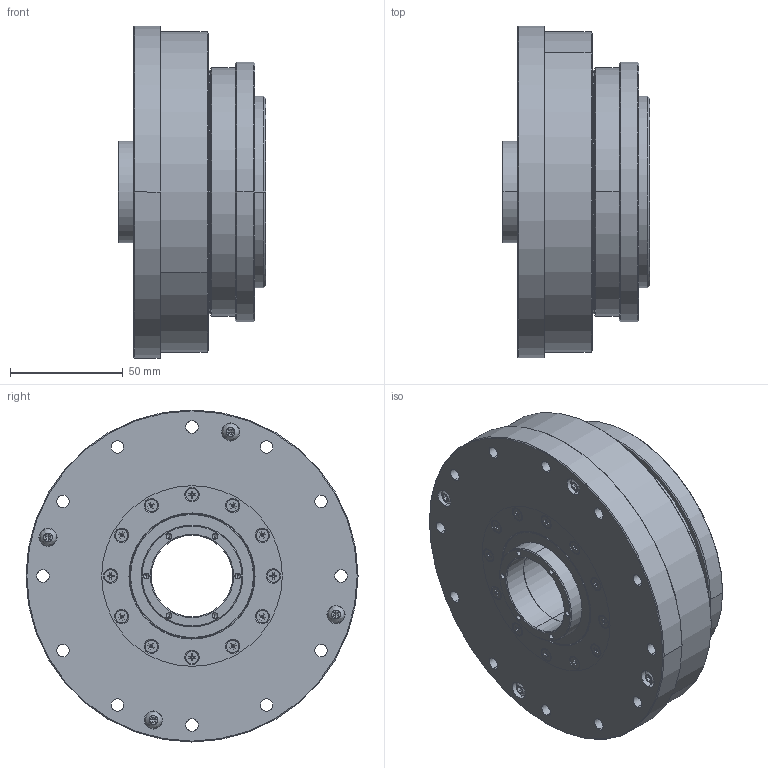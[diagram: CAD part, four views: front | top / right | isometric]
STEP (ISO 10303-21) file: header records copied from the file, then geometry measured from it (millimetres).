
FILE_DESCRIPTION (( 'STEP AP203' ), '1' );
FILE_NAME ('LHSG-32-XXX-C-III.step', '2025-01-07T07:26:26', ( '' ), ( '' ), 'SwSTEP 2.0', 'SolidWorks 2023', '' );
FILE_SCHEMA (( 'CONFIG_CONTROL_DESIGN' ));
Length unit declared in the file: metre
Products named in the file (1): LHSG-32-XXX-C-III
Bounding box: 65.5 x 147 x 147 mm (x, y, z)
Volume: 528694.8 mm3; surface area: 308845.9 mm2
Topology: 65 solids, 65 shells, 2194 faces, 5902 edges, 3600 vertices
Faces by surface type: cylinder 648, plane 592, bspline 560, cone 394
Entity records: 83035 total; most frequent: CARTESIAN_POINT 31611, ORIENTED_EDGE 11344, DIRECTION 10137, EDGE_CURVE 5672, AXIS2_PLACEMENT_3D 4208, VERTEX_POINT 3600, EDGE_LOOP 2576, CIRCLE 2573
